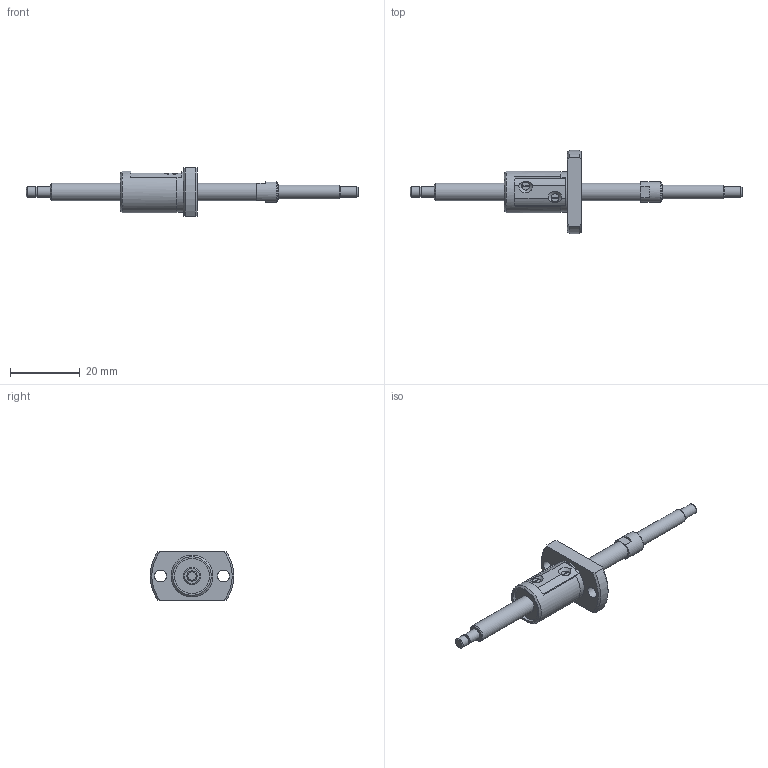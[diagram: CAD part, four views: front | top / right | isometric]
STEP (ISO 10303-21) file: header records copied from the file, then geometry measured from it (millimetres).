
FILE_DESCRIPTION(/* description */ ('STEP AP214'),/* implementation_level */ '2;1');
FILE_NAME(/* name */ 'SG0504-055R095C3B0X(20)',/* time_stamp */ '2026-07-20T19:41:09+02:00',/* author */ ('License CC BY-ND 4.0'),/* organization */ ('CADENAS'),/* preprocessor_version */ 'ST-DEVELOPER v20',/* originating_system */ 'PARTsolutions',/* authorisation */ ' ');
FILE_SCHEMA (('AUTOMOTIVE_DESIGN {1 0 10303 214 3 1 1}'));
Length unit declared in the file: millimetre
Products named in the file (3): SG0504-055R095C3B0X(20); SG0504-55R95C3B_shaft; SG0504_nut
Assembly tree (2 placements, depth 2):
  SG0504-055R095C3B0X(20)
    SG0504-55R95C3B_shaft
    SG0504_nut
Bounding box: 95 x 24 x 14 mm (x, y, z)
Volume: 4225 mm3; surface area: 3404.2 mm2
Topology: 2 solids, 2 shells, 79 faces, 187 edges, 122 vertices
Faces by surface type: plane 38, cylinder 26, cone 14, torus 1
Full cylindrical faces by diameter (mm): 2.7 x1, 3 x3, 3.4 x2, 4 x1, 5 x2, 6 x1, 10 x2, 11.6 x1, 12 x1
Entity records: 2195 total; most frequent: CARTESIAN_POINT 406, DIRECTION 374, ORIENTED_EDGE 306, AXIS2_PLACEMENT_3D 157, EDGE_CURVE 153, EDGE_LOOP 120, FACE_BOUND 120, VERTEX_POINT 113
